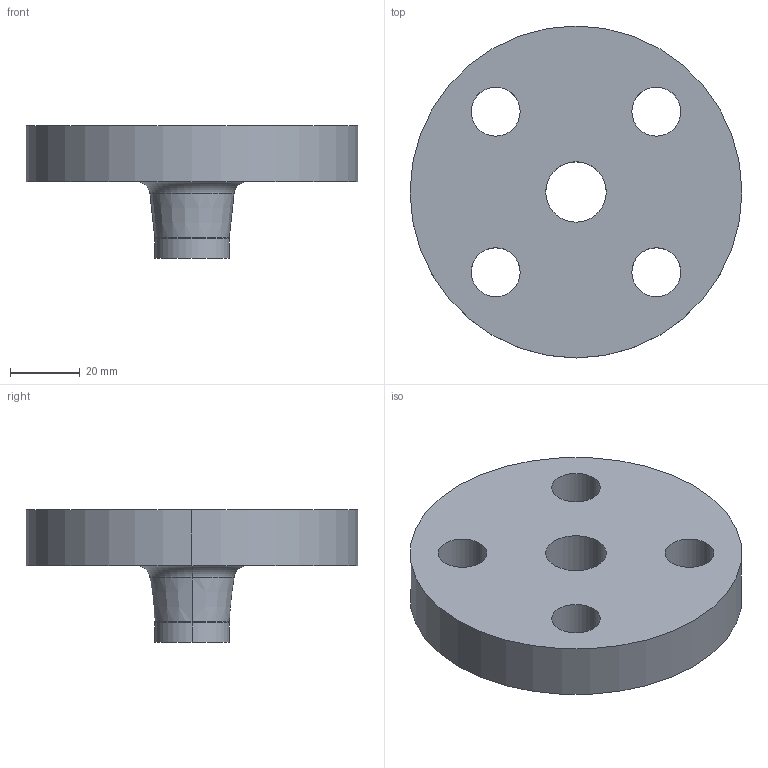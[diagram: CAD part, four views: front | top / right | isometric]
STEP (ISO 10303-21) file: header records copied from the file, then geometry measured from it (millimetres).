
FILE_DESCRIPTION (( 'STEP AP214' ), '1' );
FILE_NAME ('PN40 DN15 Type 11 - Type A Face.STEP', '2018-12-29T15:04:44', ( '' ), ( '' ), 'SwSTEP 2.0', 'SolidWorks 2019', '' );
FILE_SCHEMA (( 'AUTOMOTIVE_DESIGN' ));
Length unit declared in the file: millimetre
Products named in the file (1): PN40 DN15 Type 11 - Type A Face
Bounding box: 95 x 95 x 38 mm (x, y, z)
Volume: 103693.2 mm3; surface area: 23474 mm2
Topology: 1 solids, 1 shells, 23 faces, 54 edges, 34 vertices
Faces by surface type: cylinder 14, torus 4, plane 3, cone 2
Entity records: 732 total; most frequent: DIRECTION 140, CARTESIAN_POINT 112, ORIENTED_EDGE 108, AXIS2_PLACEMENT_3D 62, EDGE_CURVE 54, CIRCLE 38, VERTEX_POINT 34, EDGE_LOOP 34
